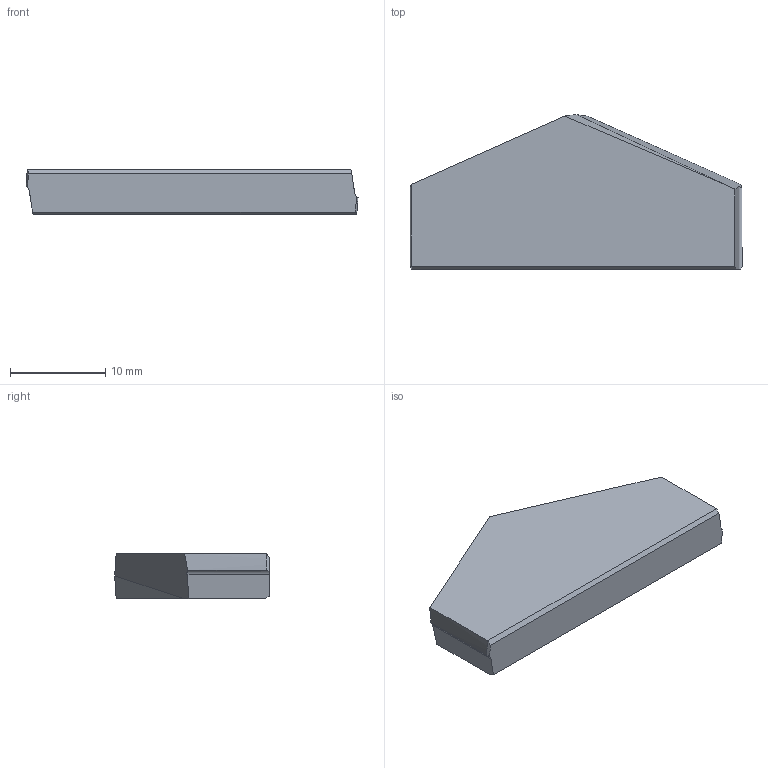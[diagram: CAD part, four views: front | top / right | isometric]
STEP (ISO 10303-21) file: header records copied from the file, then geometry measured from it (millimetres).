
FILE_DESCRIPTION (( 'STEP AP214' ), '1' );
FILE_NAME ('1.3-8.STEP', '2022-06-24T05:49:27', ( '' ), ( '' ), 'SwSTEP 2.0', 'SolidWorks 2018', '' );
FILE_SCHEMA (( 'AUTOMOTIVE_DESIGN' ));
Length unit declared in the file: millimetre
Products named in the file (1): 1.3-8
Bounding box: 34.91 x 16.25 x 4.8 mm (x, y, z)
Volume: 2035.8 mm3; surface area: 1260.2 mm2
Topology: 1 solids, 1 shells, 17 faces, 44 edges, 29 vertices
Faces by surface type: plane 11, cylinder 4, cone 2
Entity records: 554 total; most frequent: CARTESIAN_POINT 121, ORIENTED_EDGE 88, DIRECTION 76, EDGE_CURVE 44, VERTEX_POINT 29, LINE 28, VECTOR 28, AXIS2_PLACEMENT_3D 24
